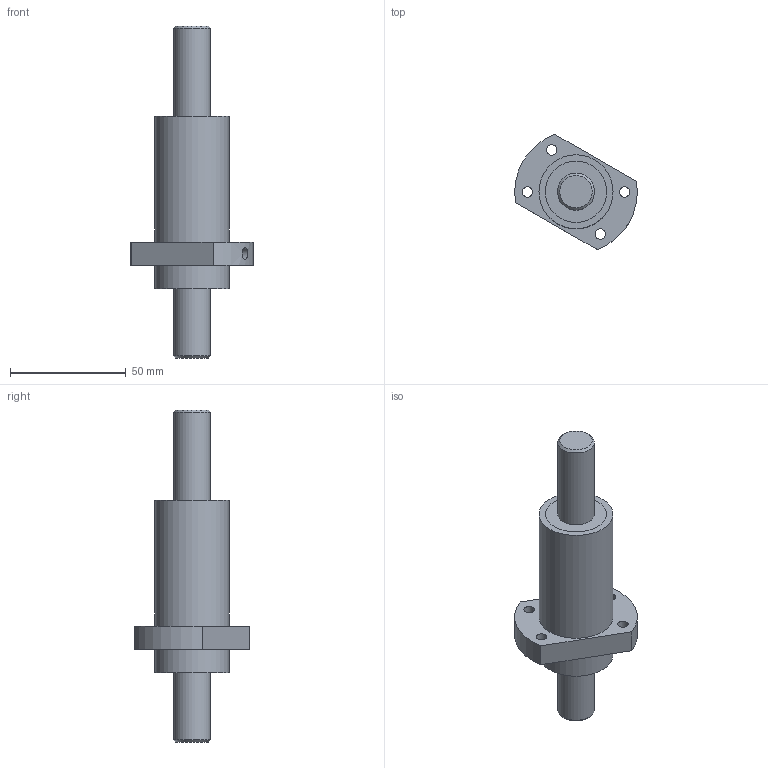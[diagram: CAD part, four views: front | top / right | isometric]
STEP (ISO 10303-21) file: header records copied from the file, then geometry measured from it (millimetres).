
FILE_DESCRIPTION(/* description */ (''),/* implementation_level */ '2;1');
FILE_NAME(/* name */ 'SFY16321.stp',/* time_stamp */ '2014-02-21T10:00:59+08:00',/* author */ (''),/* organization */ (''),/* preprocessor_version */ 'ST-DEVELOPER v11',/* originating_system */ 'SIEMENS UGS NX 6.0',/* authorisation */ '');
FILE_SCHEMA (('CONFIG_CONTROL_DESIGN'));
Length unit declared in the file: millimetre
Products named in the file (1): fann4717bkbd
Bounding box: 53 x 49.77 x 143.5 mm (x, y, z)
Volume: 81619.6 mm3; surface area: 26770 mm2
Topology: 4 solids, 4 shells, 50 faces, 95 edges, 66 vertices
Faces by surface type: cylinder 25, plane 23, cone 2
Full cylindrical faces by diameter (mm): 4.5 x4, 5 x1, 16 x4, 26 x4, 26.5 x4, 28 x4, 32 x2
Entity records: 1246 total; most frequent: CARTESIAN_POINT 225, DIRECTION 214, ORIENTED_EDGE 120, AXIS2_PLACEMENT_3D 103, EDGE_LOOP 102, FACE_BOUND 96, EDGE_CURVE 60, VERTEX_POINT 56
